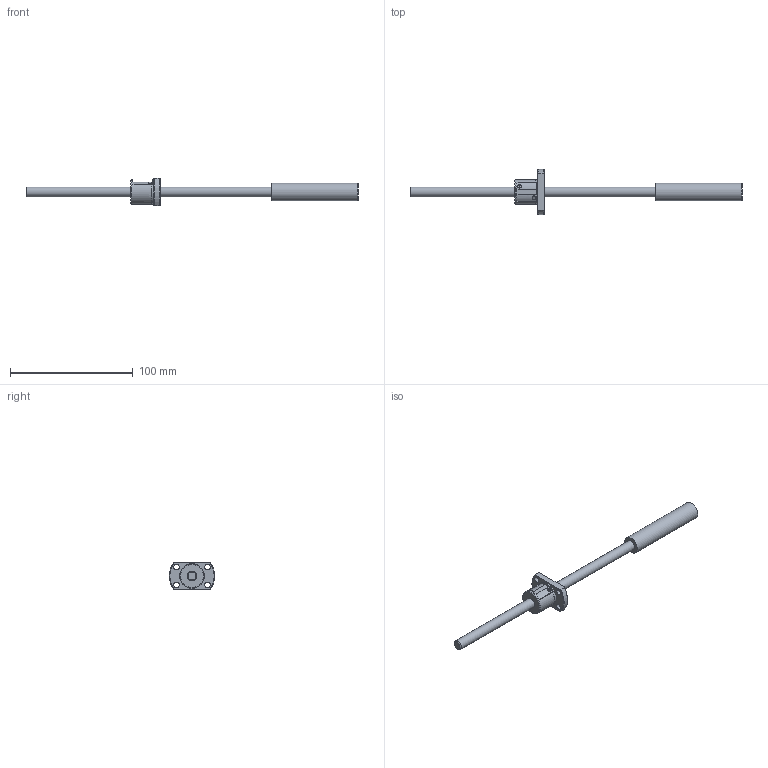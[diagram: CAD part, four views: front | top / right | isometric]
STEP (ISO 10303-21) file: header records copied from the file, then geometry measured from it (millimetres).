
FILE_DESCRIPTION(/* description */ ('STEP AP214'),/* implementation_level */ '2;1');
FILE_NAME(/* name */ 'SRT0802-196R270C7A0X(85None)',/* time_stamp */ '2026-08-04T19:56:54+02:00',/* author */ ('License CC BY-ND 4.0'),/* organization */ ('CADENAS'),/* preprocessor_version */ 'ST-DEVELOPER v20',/* originating_system */ 'PARTsolutions',/* authorisation */ ' ');
FILE_SCHEMA (('AUTOMOTIVE_DESIGN {1 0 10303 214 3 1 1}'));
Length unit declared in the file: millimetre
Products named in the file (3): SRT0802-196R270C7A0X(85None); SRT0802-196R270ACt7None33Shaft; SRT0802Nut
Assembly tree (2 placements, depth 2):
  SRT0802-196R270C7A0X(85None)
    SRT0802-196R270ACt7None33Shaft
    SRT0802Nut
Bounding box: 270 x 37 x 22 mm (x, y, z)
Volume: 28977.1 mm3; surface area: 12370.7 mm2
Topology: 2 solids, 2 shells, 50 faces, 127 edges, 85 vertices
Faces by surface type: plane 24, cylinder 15, cone 11
Full cylindrical faces by diameter (mm): 1 x2, 4.5 x4, 8 x2, 14.2 x1, 19.7 x1, 20 x1
Entity records: 1455 total; most frequent: CARTESIAN_POINT 291, DIRECTION 232, ORIENTED_EDGE 194, AXIS2_PLACEMENT_3D 100, EDGE_CURVE 97, EDGE_LOOP 82, FACE_BOUND 82, VERTEX_POINT 73
